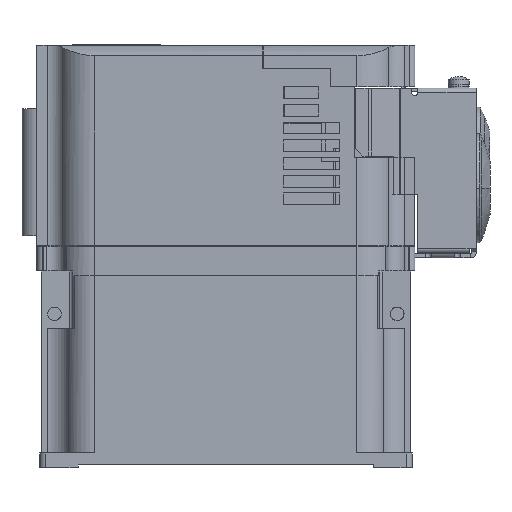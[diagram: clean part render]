
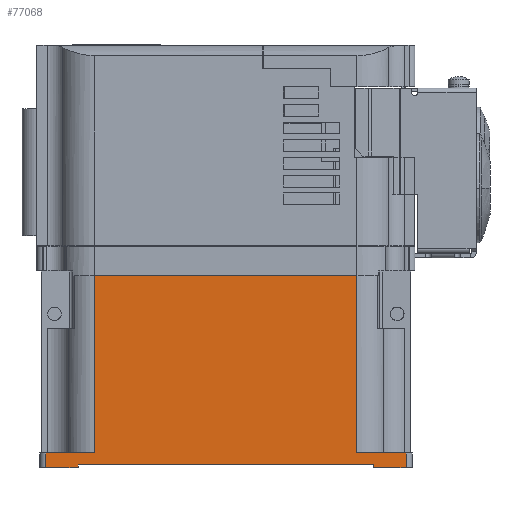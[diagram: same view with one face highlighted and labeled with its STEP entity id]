
A CAD part, left-side view. The second image highlights one B-rep face of the part: STEP entity #77068.
In plain terms, the highlighted planar face has unit normal (-1, 0, 0).
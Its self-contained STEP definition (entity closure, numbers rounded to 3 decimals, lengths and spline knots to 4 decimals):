
#10577=DIRECTION('',(0.,-1.,0.));
#10578=VECTOR('',#10577,0.4331);
#10579=CARTESIAN_POINT('',(-2.6772,-1.9685,0.));
#10580=LINE('',#10579,#10578);
#10654=DIRECTION('',(0.,1.,0.));
#10655=VECTOR('',#10654,3.937);
#10656=CARTESIAN_POINT('',(-2.6772,-1.9685,
0.0394));
#10657=LINE('',#10656,#10655);
#10658=DIRECTION('',(0.,-1.,0.));
#10659=VECTOR('',#10658,0.6545);
#10660=CARTESIAN_POINT('',(-2.6772,2.4016,
0.1969));
#10661=LINE('',#10660,#10659);
#10662=DIRECTION('',(0.,-1.,0.));
#10663=VECTOR('',#10662,3.4941);
#10664=CARTESIAN_POINT('',(-2.6772,1.7471,
2.5591));
#10665=LINE('',#10664,#10663);
#10666=DIRECTION('',(0.,-1.,0.));
#10667=VECTOR('',#10666,0.6545);
#10668=CARTESIAN_POINT('',(-2.6772,-1.7471,
0.1969));
#10669=LINE('',#10668,#10667);
#10670=DIRECTION('',(0.,0.,1.));
#10671=VECTOR('',#10670,0.0394);
#10672=CARTESIAN_POINT('',(-2.6772,-1.9685,0.));
#10673=LINE('',#10672,#10671);
#10674=DIRECTION('',(0.,0.,1.));
#10675=VECTOR('',#10674,0.0394);
#10676=CARTESIAN_POINT('',(-2.6772,1.9685,0.));
#10677=LINE('',#10676,#10675);
#10707=DIRECTION('',(0.,-1.,0.));
#10708=VECTOR('',#10707,0.4331);
#10709=CARTESIAN_POINT('',(-2.6772,2.4016,0.));
#10710=LINE('',#10709,#10708);
#10758=DIRECTION('',(0.,0.,-1.));
#10759=VECTOR('',#10758,0.1969);
#10760=CARTESIAN_POINT('',(-2.6772,2.4016,
0.1969));
#10761=LINE('',#10760,#10759);
#11492=DIRECTION('',(0.,0.,1.));
#11493=VECTOR('',#11492,2.3622);
#11494=CARTESIAN_POINT('',(-2.6772,-1.7471,
0.1969));
#11495=LINE('',#11494,#11493);
#11542=DIRECTION('',(0.,0.,-1.));
#11543=VECTOR('',#11542,2.3622);
#11544=CARTESIAN_POINT('',(-2.6772,1.7471,
2.5591));
#11545=LINE('',#11544,#11543);
#11622=DIRECTION('',(0.,0.,1.));
#11623=VECTOR('',#11622,0.1969);
#11624=CARTESIAN_POINT('',(-2.6772,-2.4016,0.));
#11625=LINE('',#11624,#11623);
#52742=CARTESIAN_POINT('',(-2.6772,1.9685,
0.0394));
#52743=VERTEX_POINT('',#52742);
#52744=CARTESIAN_POINT('',(-2.6772,-1.9685,
0.0394));
#52745=VERTEX_POINT('',#52744);
#53454=CARTESIAN_POINT('',(-2.6772,-2.4016,
0.1969));
#53455=VERTEX_POINT('',#53454);
#53456=CARTESIAN_POINT('',(-2.6772,-1.7471,
0.1969));
#53457=VERTEX_POINT('',#53456);
#53466=CARTESIAN_POINT('',(-2.6772,-1.9685,0.));
#53467=VERTEX_POINT('',#53466);
#53468=CARTESIAN_POINT('',(-2.6772,-2.4016,0.));
#53469=VERTEX_POINT('',#53468);
#53476=CARTESIAN_POINT('',(-2.6772,1.9685,0.));
#53477=VERTEX_POINT('',#53476);
#53478=CARTESIAN_POINT('',(-2.6772,2.4016,0.));
#53479=VERTEX_POINT('',#53478);
#53480=CARTESIAN_POINT('',(-2.6772,2.4016,
0.1969));
#53481=VERTEX_POINT('',#53480);
#53482=CARTESIAN_POINT('',(-2.6772,1.7471,
0.1969));
#53483=VERTEX_POINT('',#53482);
#53484=CARTESIAN_POINT('',(-2.6772,1.7471,
2.5591));
#53485=VERTEX_POINT('',#53484);
#53486=CARTESIAN_POINT('',(-2.6772,-1.7471,
2.5591));
#53487=VERTEX_POINT('',#53486);
#77041=CARTESIAN_POINT('',(-2.6772,2.4803,
2.5591));
#77042=DIRECTION('',(-1.,0.,0.));
#77043=DIRECTION('',(0.,-1.,0.));
#77044=AXIS2_PLACEMENT_3D('',#77041,#77042,#77043);
#77045=PLANE('',#77044);
#77046=ORIENTED_EDGE('',*,*,#73029,.T.);
#77048=ORIENTED_EDGE('',*,*,#77047,.F.);
#77050=ORIENTED_EDGE('',*,*,#77049,.F.);
#77052=ORIENTED_EDGE('',*,*,#77051,.F.);
#77054=ORIENTED_EDGE('',*,*,#77053,.T.);
#77056=ORIENTED_EDGE('',*,*,#77055,.F.);
#77058=ORIENTED_EDGE('',*,*,#77057,.T.);
#77060=ORIENTED_EDGE('',*,*,#77059,.F.);
#77061=ORIENTED_EDGE('',*,*,#76952,.T.);
#77063=ORIENTED_EDGE('',*,*,#77062,.F.);
#77064=ORIENTED_EDGE('',*,*,#76989,.F.);
#77065=ORIENTED_EDGE('',*,*,#77018,.T.);
#77066=EDGE_LOOP('',(#77046,#77048,#77050,#77052,#77054,#77056,#77058,#77060,
#77061,#77063,#77064,#77065));
#77067=FACE_OUTER_BOUND('',#77066,.F.);
#77068=ADVANCED_FACE('',(#77067),#77045,.T.);
#73029=EDGE_CURVE('',#52745,#52743,#10657,.T.);
#76952=EDGE_CURVE('',#53457,#53455,#10669,.T.);
#76989=EDGE_CURVE('',#53467,#53469,#10580,.T.);
#77018=EDGE_CURVE('',#53467,#52745,#10673,.T.);
#77047=EDGE_CURVE('',#53477,#52743,#10677,.T.);
#77049=EDGE_CURVE('',#53479,#53477,#10710,.T.);
#77051=EDGE_CURVE('',#53481,#53479,#10761,.T.);
#77053=EDGE_CURVE('',#53481,#53483,#10661,.T.);
#77055=EDGE_CURVE('',#53485,#53483,#11545,.T.);
#77057=EDGE_CURVE('',#53485,#53487,#10665,.T.);
#77059=EDGE_CURVE('',#53457,#53487,#11495,.T.);
#77062=EDGE_CURVE('',#53469,#53455,#11625,.T.);
